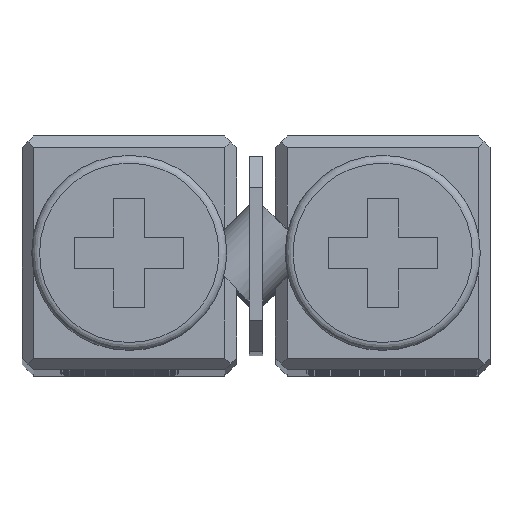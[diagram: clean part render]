
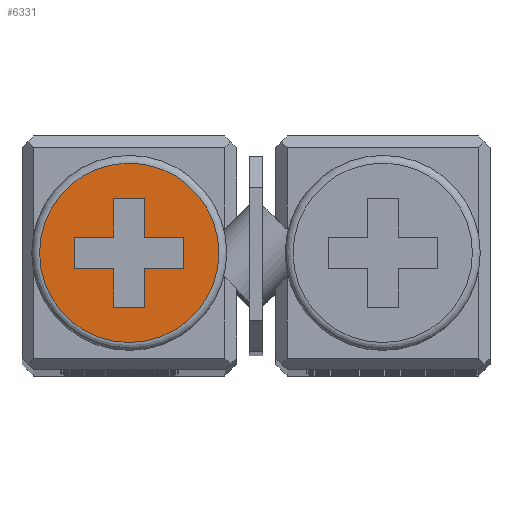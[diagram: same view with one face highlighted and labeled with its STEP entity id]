
A CAD part, top view. The second image highlights one B-rep face of the part: STEP entity #6331.
In plain terms, the highlighted planar face has unit normal (0, 0, 1).
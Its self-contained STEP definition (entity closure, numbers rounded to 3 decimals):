
#300=LINE('',#9179,#864);
#301=LINE('',#9182,#865);
#302=LINE('',#9184,#866);
#303=LINE('',#9186,#867);
#304=LINE('',#9188,#868);
#305=LINE('',#9190,#869);
#306=LINE('',#9192,#870);
#307=LINE('',#9194,#871);
#308=LINE('',#9196,#872);
#309=LINE('',#9198,#873);
#310=LINE('',#9200,#874);
#311=LINE('',#9202,#875);
#864=VECTOR('',#7452,1000.);
#865=VECTOR('',#7453,1000.);
#866=VECTOR('',#7454,1000.);
#867=VECTOR('',#7455,1000.);
#868=VECTOR('',#7456,1000.);
#869=VECTOR('',#7457,1000.);
#870=VECTOR('',#7458,1000.);
#871=VECTOR('',#7459,1000.);
#872=VECTOR('',#7460,1000.);
#873=VECTOR('',#7461,1000.);
#874=VECTOR('',#7462,1000.);
#875=VECTOR('',#7463,1000.);
#1569=ORIENTED_EDGE('',*,*,#3129,.F.);
#1570=ORIENTED_EDGE('',*,*,#3130,.F.);
#1571=ORIENTED_EDGE('',*,*,#3131,.F.);
#1572=ORIENTED_EDGE('',*,*,#3132,.F.);
#1573=ORIENTED_EDGE('',*,*,#3133,.F.);
#1574=ORIENTED_EDGE('',*,*,#3134,.F.);
#1575=ORIENTED_EDGE('',*,*,#3135,.F.);
#1576=ORIENTED_EDGE('',*,*,#3136,.F.);
#1577=ORIENTED_EDGE('',*,*,#3137,.F.);
#1578=ORIENTED_EDGE('',*,*,#3138,.F.);
#1579=ORIENTED_EDGE('',*,*,#3139,.F.);
#1580=ORIENTED_EDGE('',*,*,#3140,.F.);
#1581=ORIENTED_EDGE('',*,*,#3141,.T.);
#3129=EDGE_CURVE('',#3927,#3928,#300,.T.);
#3130=EDGE_CURVE('',#3929,#3927,#301,.T.);
#3131=EDGE_CURVE('',#3930,#3929,#302,.T.);
#3132=EDGE_CURVE('',#3931,#3930,#303,.T.);
#3133=EDGE_CURVE('',#3932,#3931,#304,.T.);
#3134=EDGE_CURVE('',#3933,#3932,#305,.T.);
#3135=EDGE_CURVE('',#3934,#3933,#306,.T.);
#3136=EDGE_CURVE('',#3935,#3934,#307,.T.);
#3137=EDGE_CURVE('',#3936,#3935,#308,.T.);
#3138=EDGE_CURVE('',#3937,#3936,#309,.T.);
#3139=EDGE_CURVE('',#3938,#3937,#310,.T.);
#3140=EDGE_CURVE('',#3928,#3938,#311,.T.);
#3141=EDGE_CURVE('',#3939,#3939,#4437,.T.);
#3927=VERTEX_POINT('',#9180);
#3928=VERTEX_POINT('',#9181);
#3929=VERTEX_POINT('',#9183);
#3930=VERTEX_POINT('',#9185);
#3931=VERTEX_POINT('',#9187);
#3932=VERTEX_POINT('',#9189);
#3933=VERTEX_POINT('',#9191);
#3934=VERTEX_POINT('',#9193);
#3935=VERTEX_POINT('',#9195);
#3936=VERTEX_POINT('',#9197);
#3937=VERTEX_POINT('',#9199);
#3938=VERTEX_POINT('',#9201);
#3939=VERTEX_POINT('',#9204);
#4437=CIRCLE('',#6686,2.3);
#4688=EDGE_LOOP('',(#1569,#1570,#1571,#1572,#1573,#1574,#1575,#1576,#1577,
#1578,#1579,#1580));
#4689=EDGE_LOOP('',(#1581));
#5112=FACE_BOUND('',#4688,.T.);
#5113=FACE_BOUND('',#4689,.T.);
#5485=PLANE('',#6685);
#6331=ADVANCED_FACE('',(#5112,#5113),#5485,.T.);
#6685=AXIS2_PLACEMENT_3D('',#9178,#7450,#7451);
#6686=AXIS2_PLACEMENT_3D('',#9203,#7464,#7465);
#7450=DIRECTION('',(0.,0.,1.));
#7451=DIRECTION('',(1.,0.,0.));
#7452=DIRECTION('',(-1.,0.,0.));
#7453=DIRECTION('',(0.,-1.,0.));
#7454=DIRECTION('',(-1.,0.,0.));
#7455=DIRECTION('',(0.,1.,0.));
#7456=DIRECTION('',(-1.,0.,0.));
#7457=DIRECTION('',(0.,1.,0.));
#7458=DIRECTION('',(1.,0.,0.));
#7459=DIRECTION('',(0.,1.,0.));
#7460=DIRECTION('',(1.,0.,0.));
#7461=DIRECTION('',(0.,-1.,0.));
#7462=DIRECTION('',(1.,0.,0.));
#7463=DIRECTION('',(0.,-1.,0.));
#7464=DIRECTION('',(0.,0.,1.));
#7465=DIRECTION('',(1.,0.,0.));
#9178=CARTESIAN_POINT('',(0.,0.,1.4));
#9179=CARTESIAN_POINT('',(-0.4,0.4,1.4));
#9180=CARTESIAN_POINT('',(-0.4,0.4,1.4));
#9181=CARTESIAN_POINT('',(-1.4,0.4,1.4));
#9182=CARTESIAN_POINT('',(-0.4,1.4,1.4));
#9183=CARTESIAN_POINT('',(-0.4,1.4,1.4));
#9184=CARTESIAN_POINT('',(0.4,1.4,1.4));
#9185=CARTESIAN_POINT('',(0.4,1.4,1.4));
#9186=CARTESIAN_POINT('',(0.4,0.4,1.4));
#9187=CARTESIAN_POINT('',(0.4,0.4,1.4));
#9188=CARTESIAN_POINT('',(1.4,0.4,1.4));
#9189=CARTESIAN_POINT('',(1.4,0.4,1.4));
#9190=CARTESIAN_POINT('',(1.4,-0.4,1.4));
#9191=CARTESIAN_POINT('',(1.4,-0.4,1.4));
#9192=CARTESIAN_POINT('',(0.4,-0.4,1.4));
#9193=CARTESIAN_POINT('',(0.4,-0.4,1.4));
#9194=CARTESIAN_POINT('',(0.4,-1.4,1.4));
#9195=CARTESIAN_POINT('',(0.4,-1.4,1.4));
#9196=CARTESIAN_POINT('',(-0.4,-1.4,1.4));
#9197=CARTESIAN_POINT('',(-0.4,-1.4,1.4));
#9198=CARTESIAN_POINT('',(-0.4,-0.4,1.4));
#9199=CARTESIAN_POINT('',(-0.4,-0.4,1.4));
#9200=CARTESIAN_POINT('',(-1.4,-0.4,1.4));
#9201=CARTESIAN_POINT('',(-1.4,-0.4,1.4));
#9202=CARTESIAN_POINT('',(-1.4,0.4,1.4));
#9203=CARTESIAN_POINT('',(0.,0.,1.4));
#9204=CARTESIAN_POINT('',(2.3,0.,1.4));
